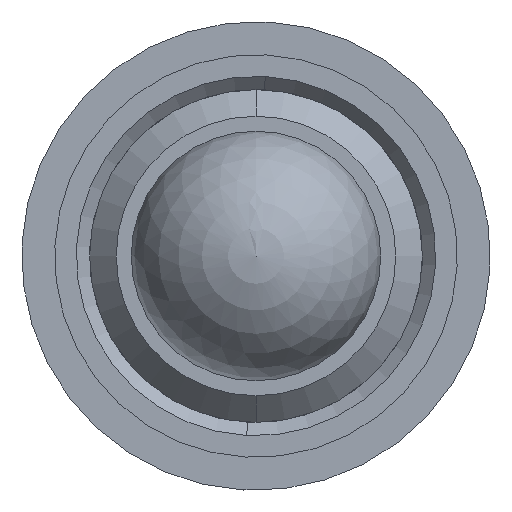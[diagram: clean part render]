
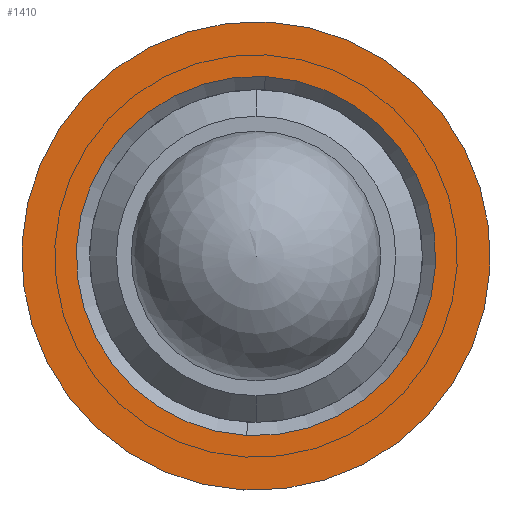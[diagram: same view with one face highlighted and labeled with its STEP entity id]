
A CAD part, left-side view. The second image highlights one B-rep face of the part: STEP entity #1410.
In plain terms, the highlighted planar face has unit normal (-1, 0, 0).
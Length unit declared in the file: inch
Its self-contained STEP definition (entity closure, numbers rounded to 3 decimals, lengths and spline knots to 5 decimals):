
#101 = ORIENTED_EDGE ( 'NONE', *, *, #219, .T. ) ;
#102 = EDGE_LOOP ( 'NONE', ( #1490, #1399 ) ) ;
#108 = DIRECTION ( 'NONE',  ( 1., 0., 0. ) ) ;
#124 = DIRECTION ( 'NONE',  ( 0., 0.051, -0.999 ) ) ;
#144 = CIRCLE ( 'NONE', #603, 0.135 ) ;
#219 = EDGE_CURVE ( 'NONE', #1037, #521, #144, .T. ) ;
#235 = DIRECTION ( 'NONE',  ( 0., 0.051, -0.999 ) ) ;
#242 = DIRECTION ( 'NONE',  ( 1., 0., 0. ) ) ;
#247 = CARTESIAN_POINT ( 'NONE',  ( 0.48264, 1.41259, 1.92479 ) ) ;
#258 = DIRECTION ( 'NONE',  ( 0., 0.051, -0.999 ) ) ;
#264 = DIRECTION ( 'NONE',  ( 1., 0., 0. ) ) ;
#272 = CARTESIAN_POINT ( 'NONE',  ( 0.48264, 1.41259, 1.92479 ) ) ;
#375 = PLANE ( 'NONE',  #1377 ) ;
#485 = CARTESIAN_POINT ( 'NONE',  ( 0.48264, 1.41259, 1.92479 ) ) ;
#506 = EDGE_CURVE ( 'NONE', #703, #1511, #986, .T. ) ;
#521 = VERTEX_POINT ( 'NONE', #899 ) ;
#578 = FACE_BOUND ( 'NONE', #646, .T. ) ;
#603 = AXIS2_PLACEMENT_3D ( 'NONE', #485, #108, #124 ) ;
#611 = AXIS2_PLACEMENT_3D ( 'NONE', #272, #264, #258 ) ;
#643 = CARTESIAN_POINT ( 'NONE',  ( 0.48264, 1.41953, 1.78996 ) ) ;
#646 = EDGE_LOOP ( 'NONE', ( #862, #101 ) ) ;
#703 = VERTEX_POINT ( 'NONE', #1501 ) ;
#862 = ORIENTED_EDGE ( 'NONE', *, *, #1516, .T. ) ;
#887 = CARTESIAN_POINT ( 'NONE',  ( 0.48264, 1.41259, 1.92479 ) ) ;
#891 = DIRECTION ( 'NONE',  ( 0., -0.051, 0.999 ) ) ;
#896 = DIRECTION ( 'NONE',  ( -1., 0., 0. ) ) ;
#899 = CARTESIAN_POINT ( 'NONE',  ( 0.48264, 1.40565, 2.05961 ) ) ;
#926 = AXIS2_PLACEMENT_3D ( 'NONE', #995, #1461, #1138 ) ;
#962 = EDGE_CURVE ( 'NONE', #1511, #703, #1411, .T. ) ;
#986 = CIRCLE ( 'NONE', #1081, 0.176 ) ;
#995 = CARTESIAN_POINT ( 'NONE',  ( 0.48264, 1.41259, 1.92479 ) ) ;
#1037 = VERTEX_POINT ( 'NONE', #643 ) ;
#1054 = CIRCLE ( 'NONE', #611, 0.135 ) ;
#1076 = CARTESIAN_POINT ( 'NONE',  ( 0.48264, 1.42163, 1.74902 ) ) ;
#1081 = AXIS2_PLACEMENT_3D ( 'NONE', #887, #896, #891 ) ;
#1138 = DIRECTION ( 'NONE',  ( 0., -0.051, 0.999 ) ) ;
#1377 = AXIS2_PLACEMENT_3D ( 'NONE', #247, #242, #235 ) ;
#1399 = ORIENTED_EDGE ( 'NONE', *, *, #962, .T. ) ;
#1410 = ADVANCED_FACE ( 'NONE', ( #578, #1533 ), #375, .F. ) ;
#1411 = CIRCLE ( 'NONE', #926, 0.176 ) ;
#1461 = DIRECTION ( 'NONE',  ( -1., 0., 0. ) ) ;
#1490 = ORIENTED_EDGE ( 'NONE', *, *, #506, .T. ) ;
#1501 = CARTESIAN_POINT ( 'NONE',  ( 0.48264, 1.40354, 2.10055 ) ) ;
#1511 = VERTEX_POINT ( 'NONE', #1076 ) ;
#1516 = EDGE_CURVE ( 'NONE', #521, #1037, #1054, .T. ) ;
#1533 = FACE_OUTER_BOUND ( 'NONE', #102, .T. ) ;
